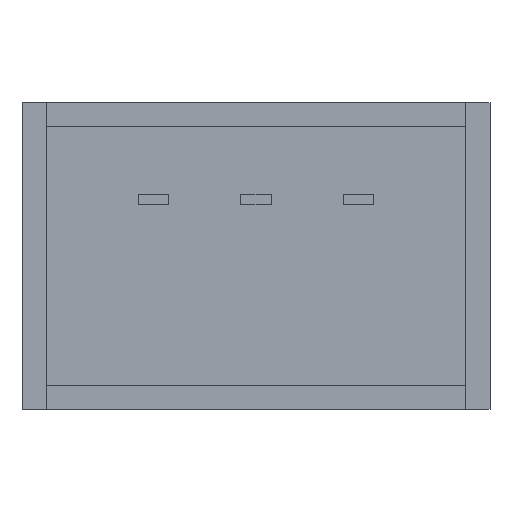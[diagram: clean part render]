
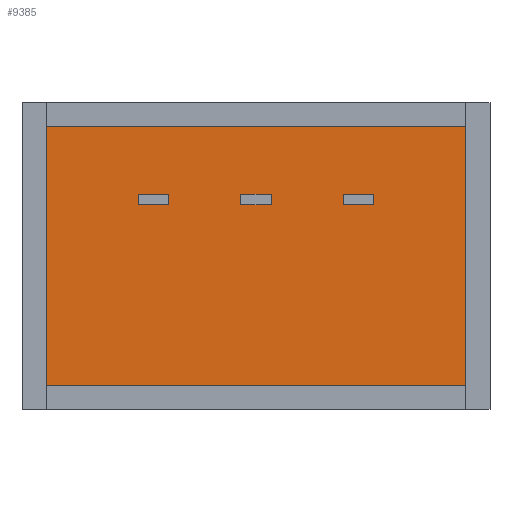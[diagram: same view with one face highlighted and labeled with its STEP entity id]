
A CAD part, front view. The second image highlights one B-rep face of the part: STEP entity #9385.
In plain terms, the highlighted planar face has unit normal (0, -1, 0).
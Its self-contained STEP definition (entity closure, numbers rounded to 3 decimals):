
#640 = VECTOR ( 'NONE', #6459, 1000. ) ;
#738 = LINE ( 'NONE', #4554, #11548 ) ;
#1185 = VECTOR ( 'NONE', #11702, 1000. ) ;
#1564 = ORIENTED_EDGE ( 'NONE', *, *, #4624, .T. ) ;
#1744 = CARTESIAN_POINT ( 'NONE',  ( -5.2, 0., 3.2 ) ) ;
#2159 = EDGE_CURVE ( 'NONE', #8208, #12299, #5977, .T. ) ;
#2164 = CARTESIAN_POINT ( 'NONE',  ( -5.2, 0., 0. ) ) ;
#3013 = CARTESIAN_POINT ( 'NONE',  ( 0., 0., 3.2 ) ) ;
#3178 = PLANE ( 'NONE',  #7010 ) ;
#3204 = EDGE_LOOP ( 'NONE', ( #9463, #4727, #1564, #8545 ) ) ;
#3678 = DIRECTION ( 'NONE',  ( 0., 0., -1. ) ) ;
#4345 = CARTESIAN_POINT ( 'NONE',  ( -5.2, 0., -3.2 ) ) ;
#4423 = VECTOR ( 'NONE', #6617, 1000. ) ;
#4531 = VERTEX_POINT ( 'NONE', #4576 ) ;
#4554 = CARTESIAN_POINT ( 'NONE',  ( 5.2, 0., 0. ) ) ;
#4576 = CARTESIAN_POINT ( 'NONE',  ( 5.2, 0., 3.2 ) ) ;
#4624 = EDGE_CURVE ( 'NONE', #4531, #8208, #7612, .T. ) ;
#4727 = ORIENTED_EDGE ( 'NONE', *, *, #4784, .F. ) ;
#4784 = EDGE_CURVE ( 'NONE', #4531, #10191, #738, .T. ) ;
#5261 = CARTESIAN_POINT ( 'NONE',  ( -5.2, 0., -3.2 ) ) ;
#5977 = LINE ( 'NONE', #9607, #1185 ) ;
#6459 = DIRECTION ( 'NONE',  ( 1., 0., 0. ) ) ;
#6617 = DIRECTION ( 'NONE',  ( -1., 0., 0. ) ) ;
#7010 = AXIS2_PLACEMENT_3D ( 'NONE', #2164, #9759, #9008 ) ;
#7417 = EDGE_CURVE ( 'NONE', #12299, #10191, #10926, .T. ) ;
#7612 = LINE ( 'NONE', #3013, #4423 ) ;
#8208 = VERTEX_POINT ( 'NONE', #1744 ) ;
#8478 = CARTESIAN_POINT ( 'NONE',  ( 5.2, 0., -3.2 ) ) ;
#8545 = ORIENTED_EDGE ( 'NONE', *, *, #2159, .T. ) ;
#9008 = DIRECTION ( 'NONE',  ( 0., 0., -1. ) ) ;
#9385 = ADVANCED_FACE ( 'NONE', ( #9889 ), #3178, .T. ) ;
#9463 = ORIENTED_EDGE ( 'NONE', *, *, #7417, .T. ) ;
#9607 = CARTESIAN_POINT ( 'NONE',  ( -5.2, 0., 0. ) ) ;
#9759 = DIRECTION ( 'NONE',  ( 0., -1., 0. ) ) ;
#9889 = FACE_OUTER_BOUND ( 'NONE', #3204, .T. ) ;
#10191 = VERTEX_POINT ( 'NONE', #8478 ) ;
#10926 = LINE ( 'NONE', #4345, #640 ) ;
#11548 = VECTOR ( 'NONE', #3678, 1000. ) ;
#11702 = DIRECTION ( 'NONE',  ( 0., 0., -1. ) ) ;
#12299 = VERTEX_POINT ( 'NONE', #5261 ) ;
